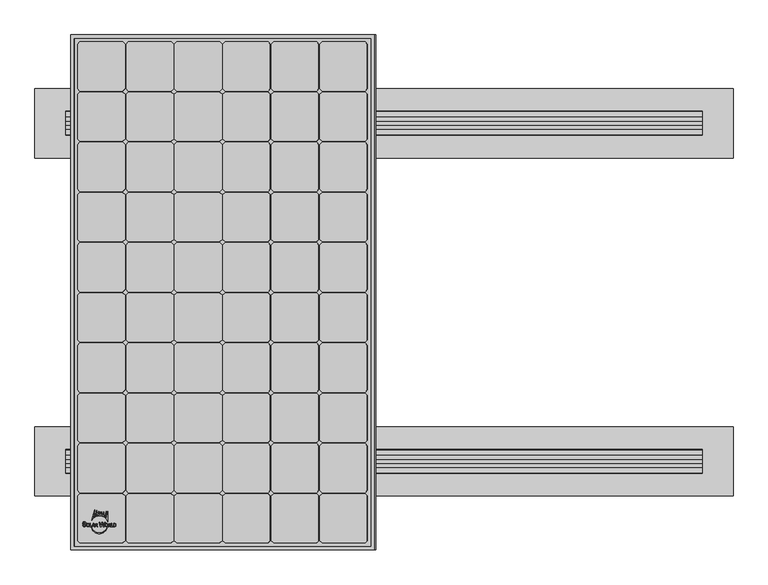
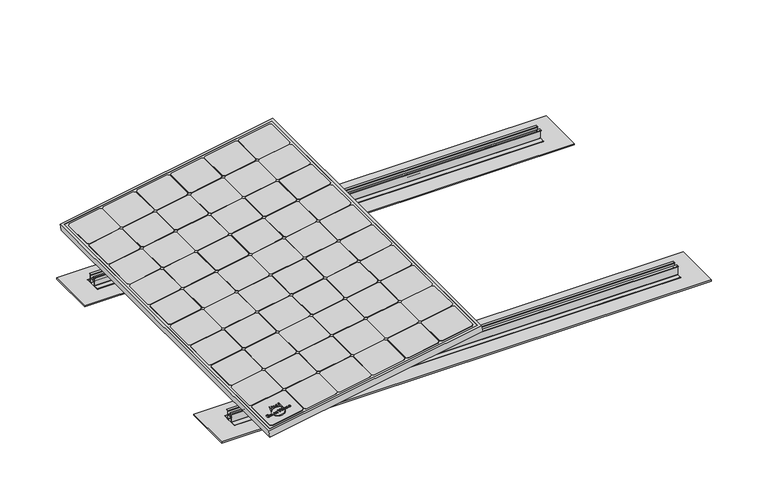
"""IFC4 building model written with IfcOpenShell, lengths in millimetres: proxy geometry, Kit Sunfix aero duo : Sunmodule Plus mono."""

from ifc_helpers import new_model, si_unit, point, frame, frame_2d, origin, origin_with_axes, place, context, project, spatial, polyline, circle_curve, trimmed, segment, composite_curve, outline, extrude, source, transform, mapped, element, save


def generic_models_581dbe9a(model_context):
    return source(origin(), model_context, "Body", "SweptSolid", [
        extrude(outline(composite_curve([segment(trimmed(circle_curve(frame_2d((-0.1998849, 3.2006257)), 5.0), [point((-0.1998849, 8.2006256))], [point((-0.1998849, -1.7993743))], False, "CARTESIAN"), True, "CONTINUOUS"), segment(trimmed(circle_curve(frame_2d((-0.1998849, 3.2006257)), 5.0), [point((-0.1998849, -1.7993743))], [point((-0.1998849, 8.2006256))], False, "CARTESIAN"), True, "CONTINUOUS")], self_intersect=False), holes=[composite_curve([segment(trimmed(circle_curve(frame_2d((0.0, 3.4929825)), 3.4929825), [point((0.0, 6.985965))], [point((0.0, 0.0))], True, "CARTESIAN"), True, "CONTINUOUS"), segment(trimmed(circle_curve(frame_2d((0.0, 3.4929825)), 3.4929825), [point((0.0, 0.0))], [point((0.0, 6.985965))], True, "CARTESIAN"), True, "CONTINUOUS")], self_intersect=False)]), frame((-964.9931519, -757.0649809, 131.8084197), z_axis=(-0.17364817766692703, 0.0, 0.9848077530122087), x_axis=(0.0, -1.0, 0.0)), (0.0, 0.0, 1.0), 0.9849601),
        extrude(outline(polyline([(-5.1998849, 9.0702125), (-5.1998849, 10.4420414), (3.5312002, 10.4420414), (3.5312002, 15.8326664), (4.8001151, 15.8326664), (4.8001151, 9.0702125), (-5.1998849, 9.0702125)])), frame((-964.9931519, -757.0649809, 131.8084197), z_axis=(-0.17364817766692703, 0.0, 0.9848077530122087), x_axis=(0.0, -1.0, 0.0)), (0.0, 0.0, 1.0), 0.9849601),
        extrude(outline(polyline([(1.7085687, 18.902279), (4.8001151, 17.7155454), (4.8001151, 16.3665353), (-5.1998849, 20.2051756), (-5.1998849, 21.4382801), (4.8001151, 25.4785423), (4.8001151, 23.923003), (1.7085687, 22.7977721), (1.7085687, 18.902279)]), holes=[polyline([(0.4734297, 22.3482183), (-3.500464, 20.9018393), (0.4734297, 19.3764044), (0.4734297, 22.3482183)])]), frame((-964.9931519, -757.0649809, 131.8084197), z_axis=(-0.17364817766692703, 0.0, 0.9848077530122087), x_axis=(0.0, -1.0, 0.0)), (0.0, 0.0, 1.0), 0.9849601),
        extrude(outline(composite_curve([segment(polyline([(-5.0411189, 26.556974), (-5.0411189, 30.7422059)]), True, "CONTINUOUS"), segment(trimmed(circle_curve(frame_2d((-2.1117507, 30.7422059)), 2.9293683), [point((-5.0411189, 30.7422059))], [point((0.4734297, 32.1198999))], False, "CARTESIAN"), True, "CONTINUOUS"), segment(polyline([(0.4734297, 32.1198999), (4.8001151, 34.8235129), (4.8001151, 33.4458189), (0.4734297, 30.7422059), (0.4734297, 27.7362383), (4.8001151, 27.7362383), (4.8001151, 26.556974), (-5.0411189, 26.556974)]), True, "CONTINUOUS")], self_intersect=False), holes=[composite_curve([segment(polyline([(-3.7924862, 30.7915982), (-3.7924862, 27.7362383), (-0.6940273, 27.7362383), (-0.6940273, 30.7915982)]), True, "CONTINUOUS"), segment(trimmed(circle_curve(frame_2d((-2.2432568, 30.7915982)), 1.5492295), [point((-0.6940273, 30.7915982))], [point((-3.7924862, 30.7915982))], True, "CARTESIAN"), True, "CONTINUOUS")], self_intersect=False)]), frame((-964.9931519, -757.0649809, 131.8084197), z_axis=(-0.17364817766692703, 0.0, 0.9848077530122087), x_axis=(0.0, -1.0, 0.0)), (0.0, 0.0, 1.0), 0.9849601),
        extrude(outline(composite_curve([segment(trimmed(circle_curve(frame_2d((1.9053474, 40.4638564)), 26.5), [point((8.7208449, 66.0724291))], [point((8.7208449, 14.8552837))], False, "CARTESIAN"), True, "CONTINUOUS"), segment(trimmed(circle_curve(frame_2d((-2.6017434, 40.4638564)), 28.0), [point((8.7208449, 14.8552837))], [point((8.7208449, 66.0724291))], True, "CARTESIAN"), True, "CONTINUOUS")], self_intersect=False)), frame((-964.9931519, -757.0649809, 131.8084197), z_axis=(-0.17364817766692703, 0.0, 0.9848077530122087), x_axis=(0.0, -1.0, 0.0)), (0.0, 0.0, 1.0), 0.9849601),
        extrude(outline(polyline([(4.8001151, 44.2256023), (-9.9398205, 40.2760484), (-9.9398205, 42.074514), (2.5405515, 45.1862202), (-9.9398205, 48.8966599), (-9.9398205, 51.6212433), (2.7353917, 55.3507953), (-9.9398205, 58.3691276), (-9.9398205, 60.3004055), (4.8001151, 56.3508516), (4.8001151, 54.2558571), (-8.1954331, 50.2827193), (4.8001151, 46.4191166), (4.8001151, 44.2256023)])), frame((-964.9931519, -757.0649809, 131.8084197), z_axis=(-0.17364817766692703, 0.0, 0.9848077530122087), x_axis=(0.0, -1.0, 0.0)), (0.0, 0.0, 1.0), 0.9849601),
        extrude(outline(composite_curve([segment(trimmed(circle_curve(frame_2d((-0.1998849, 64.1588177)), 5.0), [point((-0.1998849, 69.1588177))], [point((-0.1998849, 59.1588178))], False, "CARTESIAN"), True, "CONTINUOUS"), segment(trimmed(circle_curve(frame_2d((-0.1998849, 64.1588177)), 5.0), [point((-0.1998849, 59.1588178))], [point((-0.1998849, 69.1588177))], False, "CARTESIAN"), True, "CONTINUOUS")], self_intersect=False), holes=[composite_curve([segment(trimmed(circle_curve(frame_2d((-0.1998849, 64.1588177)), 3.4929825), [point((-0.1998849, 67.6518003))], [point((-0.1998849, 60.6658353))], True, "CARTESIAN"), True, "CONTINUOUS"), segment(trimmed(circle_curve(frame_2d((-0.1998849, 64.1588177)), 3.4929825), [point((-0.1998849, 60.6658353))], [point((-0.1998849, 67.6518003))], True, "CARTESIAN"), True, "CONTINUOUS")], self_intersect=False)]), frame((-964.9931519, -757.0649809, 131.8084197), z_axis=(-0.17364817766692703, 0.0, 0.9848077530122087), x_axis=(0.0, -1.0, 0.0)), (0.0, 0.0, 1.0), 0.9849601),
        extrude(outline(composite_curve([segment(polyline([(-5.0411189, 69.9653712), (-5.0411189, 74.150603)]), True, "CONTINUOUS"), segment(trimmed(circle_curve(frame_2d((-2.1117507, 74.150603)), 2.9293683), [point((-5.0411189, 74.150603))], [point((0.4734297, 75.5282971))], False, "CARTESIAN"), True, "CONTINUOUS"), segment(polyline([(0.4734297, 75.5282971), (4.8001151, 78.2319101), (4.8001151, 76.8542161), (0.4734297, 74.150603), (0.4734297, 71.1446354), (4.8001151, 71.1446354), (4.8001151, 69.9653712), (-5.0411189, 69.9653712)]), True, "CONTINUOUS")], self_intersect=False), holes=[composite_curve([segment(polyline([(-3.7924862, 74.1999954), (-3.7924862, 71.1446354), (-0.6940273, 71.1446354), (-0.6940273, 74.1999954)]), True, "CONTINUOUS"), segment(trimmed(circle_curve(frame_2d((-2.2432568, 74.1999954)), 1.5492295), [point((-0.6940273, 74.1999954))], [point((-3.7924862, 74.1999954))], True, "CARTESIAN"), True, "CONTINUOUS")], self_intersect=False)]), frame((-964.9931519, -757.0649809, 131.8084197), z_axis=(-0.17364817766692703, 0.0, 0.9848077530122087), x_axis=(0.0, -1.0, 0.0)), (0.0, 0.0, 1.0), 0.9849601),
        extrude(outline(polyline([(4.8001151, 79.926566), (-5.1998849, 79.926566), (-5.1998849, 81.1546295), (3.5152088, 81.1546295), (3.5152088, 86.1546295), (4.8001151, 86.1546295), (4.8001151, 79.926566)])), frame((-964.9931519, -757.0649809, 131.8084197), z_axis=(-0.17364817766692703, 0.0, 0.9848077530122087), x_axis=(0.0, -1.0, 0.0)), (0.0, 0.0, 1.0), 0.9849601),
        extrude(outline(composite_curve([segment(polyline([(4.8001151, 87.4892146), (-5.1998849, 87.4892146), (-5.1998849, 91.6547374)]), True, "CONTINUOUS"), segment(trimmed(circle_curve(frame_2d((-0.1998849, 90.5586456)), 5.118732), [point((-5.1998849, 91.6547374))], [point((4.8001151, 91.6547374))], False, "CARTESIAN"), True, "CONTINUOUS"), segment(polyline([(4.8001151, 91.6547374), (4.8001151, 87.4892146)]), True, "CONTINUOUS")], self_intersect=False), holes=[composite_curve([segment(polyline([(-3.6386387, 89.0149736), (3.3613613, 89.0149736), (3.3613613, 90.7441157)]), True, "CONTINUOUS"), segment(trimmed(circle_curve(frame_2d((-0.1386387, 90.7441157)), 3.5), [point((3.3613613, 90.7441157))], [point((-3.6386387, 90.7441157))], True, "CARTESIAN"), True, "CONTINUOUS"), segment(polyline([(-3.6386387, 90.7441157), (-3.6386387, 89.0149736)]), True, "CONTINUOUS")], self_intersect=False)]), frame((-964.9931519, -757.0649809, 131.8084197), z_axis=(-0.17364817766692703, 0.0, 0.9848077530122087), x_axis=(0.0, -1.0, 0.0)), (0.0, 0.0, 1.0), 0.9849601),
        extrude(outline(composite_curve([segment(trimmed(circle_curve(frame_2d((-5.8567778, -8.5215553)), 5.3511248), [point((-2.5428431, -12.7230281))], [point((-5.8567778, -3.1704305))], False, "CARTESIAN"), True, "CONTINUOUS"), segment(polyline([(-5.8567778, -3.1704305), (-5.8567778, -4.9541388)]), True, "CONTINUOUS"), segment(trimmed(circle_curve(frame_2d((-5.8567778, -8.4292945)), 3.4751557), [point((-5.8567778, -4.9541388))], [point((-4.0740931, -11.4123705))], True, "CARTESIAN"), True, "CONTINUOUS"), segment(polyline([(-4.0740931, -11.4123705), (-4.0740931, -4.6349933)]), True, "CONTINUOUS"), segment(trimmed(circle_curve(frame_2d((-0.1981171, -8.4406899)), 5.4319901), [point((-4.0740931, -4.6349933))], [point((-0.1981171, -13.8726801))], False, "CARTESIAN"), True, "CONTINUOUS"), segment(polyline([(-0.1981171, -13.8726801), (-0.1981171, -11.9609934)]), True, "CONTINUOUS"), segment(trimmed(circle_curve(frame_2d((-0.1981171, -8.5473448)), 3.4136486), [point((-0.1981171, -11.9609934))], [point((-2.5428431, -6.0663658))], True, "CARTESIAN"), True, "CONTINUOUS"), segment(polyline([(-2.5428431, -6.0663658), (-2.5428431, -12.7230281)]), True, "CONTINUOUS")], self_intersect=False)), frame((-964.9931519, -757.0649809, 131.8084197), z_axis=(-0.17364817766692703, 0.0, 0.9848077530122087), x_axis=(0.0, -1.0, 0.0)), (0.0, 0.0, 1.0), 0.9849601),
        extrude(outline(composite_curve([segment(trimmed(circle_curve(frame_2d((-1.0440339, 40.9467485)), 29.2067961), [point((-23.9790883, 22.8630482))], [point((-15.9921531, 15.8551031))], True, "CARTESIAN"), True, "CONTINUOUS"), segment(polyline([(-15.9921531, 15.8551031), (-50.5289432, 26.1229605), (-23.9790883, 22.8630482)]), True, "CONTINUOUS")], self_intersect=False)), frame((-964.9931519, -757.0649809, 131.8084197), z_axis=(-0.17364817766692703, 0.0, 0.9848077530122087), x_axis=(0.0, -1.0, 0.0)), (0.0, 0.0, 1.0), 0.9849601),
        extrude(outline(composite_curve([segment(polyline([(-45.6184953, 68.4638003), (-10.8342738, 68.4638003)]), True, "CONTINUOUS"), segment(trimmed(circle_curve(frame_2d((-1.0440339, 40.9467485)), 29.2067961), [point((-10.8342738, 68.4638003))], [point((-20.1505739, 63.0369513))], True, "CARTESIAN"), True, "CONTINUOUS"), segment(polyline([(-20.1505739, 63.0369513), (-45.6184953, 68.4638003)]), True, "CONTINUOUS")], self_intersect=False)), frame((-964.9931519, -757.0649809, 131.8084197), z_axis=(-0.17364817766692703, 0.0, 0.9848077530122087), x_axis=(0.0, -1.0, 0.0)), (0.0, 0.0, 1.0), 0.9849601),
        extrude(outline(composite_curve([segment(polyline([(-44.1747175, 63.1268574), (-21.4882128, 61.8051397)]), True, "CONTINUOUS"), segment(trimmed(circle_curve(frame_2d((-1.0440339, 40.9467485)), 29.2067961), [point((-21.4882128, 61.8051397))], [point((-24.7730634, 57.9752567))], True, "CARTESIAN"), True, "CONTINUOUS"), segment(polyline([(-24.7730634, 57.9752567), (-44.1747175, 63.1268574)]), True, "CONTINUOUS")], self_intersect=False)), frame((-964.9931519, -757.0649809, 131.8084197), z_axis=(-0.17364817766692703, 0.0, 0.9848077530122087), x_axis=(0.0, -1.0, 0.0)), (0.0, 0.0, 1.0), 0.9849601),
        extrude(outline(composite_curve([segment(trimmed(circle_curve(frame_2d((-1.0440339, 40.9467485)), 29.2067961), [point((-30.016107, 44.6421395))], [point((-30.2372718, 40.0569205))], True, "CARTESIAN"), True, "CONTINUOUS"), segment(polyline([(-30.2372718, 40.0569205), (-43.7376583, 43.2717505), (-30.016107, 44.6421395)]), True, "CONTINUOUS")], self_intersect=False)), frame((-964.9931519, -757.0649809, 131.8084197), z_axis=(-0.17364817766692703, 0.0, 0.9848077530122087), x_axis=(0.0, -1.0, 0.0)), (0.0, 0.0, 1.0), 0.9849601),
        extrude(outline(composite_curve([segment(polyline([(-43.0867937, 49.2829525), (-28.940714, 49.5961517)]), True, "CONTINUOUS"), segment(trimmed(circle_curve(frame_2d((-1.0440339, 40.9467485)), 29.2067961), [point((-28.940714, 49.5961517))], [point((-29.7301925, 46.4368523))], True, "CARTESIAN"), True, "CONTINUOUS"), segment(polyline([(-29.7301925, 46.4368523), (-43.0867937, 49.2829525)]), True, "CONTINUOUS")], self_intersect=False)), frame((-964.9931519, -757.0649809, 131.8084197), z_axis=(-0.17364817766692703, 0.0, 0.9848077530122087), x_axis=(0.0, -1.0, 0.0)), (0.0, 0.0, 1.0), 0.9849601),
        extrude(outline(composite_curve([segment(polyline([(-43.0770314, 54.8085395), (-26.7517698, 54.8085395)]), True, "CONTINUOUS"), segment(trimmed(circle_curve(frame_2d((-1.0440339, 40.9467485)), 29.2067961), [point((-26.7517698, 54.8085395))], [point((-28.353325, 51.3024018))], True, "CARTESIAN"), True, "CONTINUOUS"), segment(polyline([(-28.353325, 51.3024018), (-43.0770314, 54.8085395)]), True, "CONTINUOUS")], self_intersect=False)), frame((-964.9931519, -757.0649809, 131.8084197), z_axis=(-0.17364817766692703, 0.0, 0.9848077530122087), x_axis=(0.0, -1.0, 0.0)), (0.0, 0.0, 1.0), 0.9849601),
        extrude(outline(composite_curve([segment(trimmed(circle_curve(frame_2d((-1.0440339, 40.9467485)), 29.2067961), [point((-28.5480992, 31.1200845))], [point((-26.1399185, 26.0057475))], True, "CARTESIAN"), True, "CONTINUOUS"), segment(polyline([(-26.1399185, 26.0057475), (-47.3787629, 32.2171606), (-28.5480992, 31.1200845)]), True, "CONTINUOUS")], self_intersect=False)), frame((-964.9931519, -757.0649809, 131.8084197), z_axis=(-0.17364817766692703, 0.0, 0.9848077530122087), x_axis=(0.0, -1.0, 0.0)), (0.0, 0.0, 1.0), 0.9849601),
        extrude(outline(composite_curve([segment(trimmed(circle_curve(frame_2d((-1.0440339, 40.9467485)), 29.2067961), [point((-30.1062523, 38.0442673))], [point((-29.165809, 33.0598797))], True, "CARTESIAN"), True, "CONTINUOUS"), segment(polyline([(-29.165809, 33.0598797), (-44.3056664, 38.8715264), (-30.1062523, 38.0442673)]), True, "CONTINUOUS")], self_intersect=False)), frame((-964.9931519, -757.0649809, 131.8084197), z_axis=(-0.17364817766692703, 0.0, 0.9848077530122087), x_axis=(0.0, -1.0, 0.0)), (0.0, 0.0, 1.0), 0.9849601),
        extrude(outline(polyline([(-1477.2, 172.0), (-1469.7, 179.5), (-1324.7, 179.5), (-1317.2, 172.0), (-1317.2, 30.0), (-1324.7, 22.5), (-1469.7, 22.5), (-1477.2, 30.0), (-1477.2, 172.0)])), frame((-1017.6207833, -662.5, 121.5133218), z_axis=(-0.17364817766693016, 0.0, 0.9848077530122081), x_axis=(0.0, -1.0, 0.0)), (0.0, 0.0, 1.0), 1.0),
        extrude(outline(polyline([(-1477.2, 331.8), (-1469.7, 339.3), (-1324.7, 339.3), (-1317.2, 331.8), (-1317.2, 189.8), (-1324.7, 182.3), (-1469.7, 182.3), (-1477.2, 189.8), (-1477.2, 331.8)])), frame((-1017.6207833, -662.5, 121.5133218), z_axis=(-0.17364817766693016, 0.0, 0.9848077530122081), x_axis=(0.0, -1.0, 0.0)), (0.0, 0.0, 1.0), 1.0),
        extrude(outline(polyline([(-1477.2, 491.6), (-1469.7, 499.1), (-1324.7, 499.1), (-1317.2, 491.6), (-1317.2, 349.6), (-1324.7, 342.1), (-1469.7, 342.1), (-1477.2, 349.6), (-1477.2, 491.6)])), frame((-1017.6207833, -662.5, 121.5133218), z_axis=(-0.17364817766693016, 0.0, 0.9848077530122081), x_axis=(0.0, -1.0, 0.0)), (0.0, 0.0, 1.0), 1.0),
        extrude(outline(polyline([(-1477.2, 651.4), (-1469.7, 658.9), (-1324.7, 658.9), (-1317.2, 651.4), (-1317.2, 509.4), (-1324.7, 501.9), (-1469.7, 501.9), (-1477.2, 509.4), (-1477.2, 651.4)])), frame((-1017.6207833, -662.5, 121.5133218), z_axis=(-0.17364817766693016, 0.0, 0.9848077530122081), x_axis=(0.0, -1.0, 0.0)), (0.0, 0.0, 1.0), 1.0),
        extrude(outline(polyline([(-1477.2, 811.2), (-1469.7, 818.7), (-1324.7, 818.7), (-1317.2, 811.2), (-1317.2, 669.2), (-1324.7, 661.7), (-1469.7, 661.7), (-1477.2, 669.2), (-1477.2, 811.2)])), frame((-1017.6207833, -662.5, 121.5133218), z_axis=(-0.17364817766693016, 0.0, 0.9848077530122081), x_axis=(0.0, -1.0, 0.0)), (0.0, 0.0, 1.0), 1.0),
        extrude(outline(polyline([(-1477.2, 971.0), (-1469.7, 978.5), (-1324.7, 978.5), (-1317.2, 971.0), (-1317.2, 829.0), (-1324.7, 821.5), (-1469.7, 821.5), (-1477.2, 829.0), (-1477.2, 971.0)])), frame((-1017.6207833, -662.5, 121.5133218), z_axis=(-0.17364817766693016, 0.0, 0.9848077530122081), x_axis=(0.0, -1.0, 0.0)), (0.0, 0.0, 1.0), 1.0),
        extrude(outline(polyline([(-1313.9, 172.0), (-1306.4, 179.5), (-1161.4, 179.5), (-1153.9, 172.0), (-1153.9, 30.0), (-1161.4, 22.5), (-1306.4, 22.5), (-1313.9, 30.0), (-1313.9, 172.0)])), frame((-1017.6207833, -662.5, 121.5133218), z_axis=(-0.17364817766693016, 0.0, 0.9848077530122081), x_axis=(0.0, -1.0, 0.0)), (0.0, 0.0, 1.0), 1.0),
        extrude(outline(polyline([(-1313.9, 331.8), (-1306.4, 339.3), (-1161.4, 339.3), (-1153.9, 331.8), (-1153.9, 189.8), (-1161.4, 182.3), (-1306.4, 182.3), (-1313.9, 189.8), (-1313.9, 331.8)])), frame((-1017.6207833, -662.5, 121.5133218), z_axis=(-0.17364817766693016, 0.0, 0.9848077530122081), x_axis=(0.0, -1.0, 0.0)), (0.0, 0.0, 1.0), 1.0),
        extrude(outline(polyline([(-1313.9, 491.6), (-1306.4, 499.1), (-1161.4, 499.1), (-1153.9, 491.6), (-1153.9, 349.6), (-1161.4, 342.1), (-1306.4, 342.1), (-1313.9, 349.6), (-1313.9, 491.6)])), frame((-1017.6207833, -662.5, 121.5133218), z_axis=(-0.17364817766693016, 0.0, 0.9848077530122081), x_axis=(0.0, -1.0, 0.0)), (0.0, 0.0, 1.0), 1.0),
        extrude(outline(polyline([(-1313.9, 651.4), (-1306.4, 658.9), (-1161.4, 658.9), (-1153.9, 651.4), (-1153.9, 509.4), (-1161.4, 501.9), (-1306.4, 501.9), (-1313.9, 509.4), (-1313.9, 651.4)])), frame((-1017.6207833, -662.5, 121.5133218), z_axis=(-0.17364817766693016, 0.0, 0.9848077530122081), x_axis=(0.0, -1.0, 0.0)), (0.0, 0.0, 1.0), 1.0),
        extrude(outline(polyline([(-1313.9, 811.2), (-1306.4, 818.7), (-1161.4, 818.7), (-1153.9, 811.2), (-1153.9, 669.2), (-1161.4, 661.7), (-1306.4, 661.7), (-1313.9, 669.2), (-1313.9, 811.2)])), frame((-1017.6207833, -662.5, 121.5133218), z_axis=(-0.17364817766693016, 0.0, 0.9848077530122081), x_axis=(0.0, -1.0, 0.0)), (0.0, 0.0, 1.0), 1.0),
        extrude(outline(polyline([(-1313.9, 971.0), (-1306.4, 978.5), (-1161.4, 978.5), (-1153.9, 971.0), (-1153.9, 829.0), (-1161.4, 821.5), (-1306.4, 821.5), (-1313.9, 829.0), (-1313.9, 971.0)])), frame((-1017.6207833, -662.5, 121.5133218), z_axis=(-0.17364817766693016, 0.0, 0.9848077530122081), x_axis=(0.0, -1.0, 0.0)), (0.0, 0.0, 1.0), 1.0),
        extrude(outline(polyline([(-1150.6, 172.0), (-1143.1, 179.5), (-998.1, 179.5), (-990.6, 172.0), (-990.6, 30.0), (-998.1, 22.5), (-1143.1, 22.5), (-1150.6, 30.0), (-1150.6, 172.0)])), frame((-1017.6207833, -662.5, 121.5133218), z_axis=(-0.17364817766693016, 0.0, 0.9848077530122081), x_axis=(0.0, -1.0, 0.0)), (0.0, 0.0, 1.0), 1.0),
        extrude(outline(polyline([(-1150.6, 331.8), (-1143.1, 339.3), (-998.1, 339.3), (-990.6, 331.8), (-990.6, 189.8), (-998.1, 182.3), (-1143.1, 182.3), (-1150.6, 189.8), (-1150.6, 331.8)])), frame((-1017.6207833, -662.5, 121.5133218), z_axis=(-0.17364817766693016, 0.0, 0.9848077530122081), x_axis=(0.0, -1.0, 0.0)), (0.0, 0.0, 1.0), 1.0),
        extrude(outline(polyline([(-1150.6, 491.6), (-1143.1, 499.1), (-998.1, 499.1), (-990.6, 491.6), (-990.6, 349.6), (-998.1, 342.1), (-1143.1, 342.1), (-1150.6, 349.6), (-1150.6, 491.6)])), frame((-1017.6207833, -662.5, 121.5133218), z_axis=(-0.17364817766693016, 0.0, 0.9848077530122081), x_axis=(0.0, -1.0, 0.0)), (0.0, 0.0, 1.0), 1.0),
        extrude(outline(polyline([(-1150.6, 651.4), (-1143.1, 658.9), (-998.1, 658.9), (-990.6, 651.4), (-990.6, 509.4), (-998.1, 501.9), (-1143.1, 501.9), (-1150.6, 509.4), (-1150.6, 651.4)])), frame((-1017.6207833, -662.5, 121.5133218), z_axis=(-0.17364817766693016, 0.0, 0.9848077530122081), x_axis=(0.0, -1.0, 0.0)), (0.0, 0.0, 1.0), 1.0),
        extrude(outline(polyline([(-1150.6, 811.2), (-1143.1, 818.7), (-998.1, 818.7), (-990.6, 811.2), (-990.6, 669.2), (-998.1, 661.7), (-1143.1, 661.7), (-1150.6, 669.2), (-1150.6, 811.2)])), frame((-1017.6207833, -662.5, 121.5133218), z_axis=(-0.17364817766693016, 0.0, 0.9848077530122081), x_axis=(0.0, -1.0, 0.0)), (0.0, 0.0, 1.0), 1.0),
        extrude(outline(polyline([(-1150.6, 971.0), (-1143.1, 978.5), (-998.1, 978.5), (-990.6, 971.0), (-990.6, 829.0), (-998.1, 821.5), (-1143.1, 821.5), (-1150.6, 829.0), (-1150.6, 971.0)])), frame((-1017.6207833, -662.5, 121.5133218), z_axis=(-0.17364817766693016, 0.0, 0.9848077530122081), x_axis=(0.0, -1.0, 0.0)), (0.0, 0.0, 1.0), 1.0),
        extrude(outline(polyline([(-987.3, 172.0), (-979.8, 179.5), (-834.8, 179.5), (-827.3, 172.0), (-827.3, 30.0), (-834.8, 22.5), (-979.8, 22.5), (-987.3, 30.0), (-987.3, 172.0)])), frame((-1017.6207833, -662.5, 121.5133218), z_axis=(-0.17364817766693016, 0.0, 0.9848077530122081), x_axis=(0.0, -1.0, 0.0)), (0.0, 0.0, 1.0), 1.0),
        extrude(outline(polyline([(-987.3, 331.8), (-979.8, 339.3), (-834.8, 339.3), (-827.3, 331.8), (-827.3, 189.8), (-834.8, 182.3), (-979.8, 182.3), (-987.3, 189.8), (-987.3, 331.8)])), frame((-1017.6207833, -662.5, 121.5133218), z_axis=(-0.17364817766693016, 0.0, 0.9848077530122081), x_axis=(0.0, -1.0, 0.0)), (0.0, 0.0, 1.0), 1.0),
        extrude(outline(polyline([(-987.3, 491.6), (-979.8, 499.1), (-834.8, 499.1), (-827.3, 491.6), (-827.3, 349.6), (-834.8, 342.1), (-979.8, 342.1), (-987.3, 349.6), (-987.3, 491.6)])), frame((-1017.6207833, -662.5, 121.5133218), z_axis=(-0.17364817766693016, 0.0, 0.9848077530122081), x_axis=(0.0, -1.0, 0.0)), (0.0, 0.0, 1.0), 1.0),
        extrude(outline(polyline([(-987.3, 651.4), (-979.8, 658.9), (-834.8, 658.9), (-827.3, 651.4), (-827.3, 509.4), (-834.8, 501.9), (-979.8, 501.9), (-987.3, 509.4), (-987.3, 651.4)])), frame((-1017.6207833, -662.5, 121.5133218), z_axis=(-0.17364817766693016, 0.0, 0.9848077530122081), x_axis=(0.0, -1.0, 0.0)), (0.0, 0.0, 1.0), 1.0),
        extrude(outline(polyline([(-987.3, 811.2), (-979.8, 818.7), (-834.8, 818.7), (-827.3, 811.2), (-827.3, 669.2), (-834.8, 661.7), (-979.8, 661.7), (-987.3, 669.2), (-987.3, 811.2)])), frame((-1017.6207833, -662.5, 121.5133218), z_axis=(-0.17364817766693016, 0.0, 0.9848077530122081), x_axis=(0.0, -1.0, 0.0)), (0.0, 0.0, 1.0), 1.0),
        extrude(outline(polyline([(-987.3, 971.0), (-979.8, 978.5), (-834.8, 978.5), (-827.3, 971.0), (-827.3, 829.0), (-834.8, 821.5), (-979.8, 821.5), (-987.3, 829.0), (-987.3, 971.0)])), frame((-1017.6207833, -662.5, 121.5133218), z_axis=(-0.17364817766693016, 0.0, 0.9848077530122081), x_axis=(0.0, -1.0, 0.0)), (0.0, 0.0, 1.0), 1.0),
        extrude(outline(polyline([(-824.0, 172.0), (-816.5, 179.5), (-671.5, 179.5), (-664.0, 172.0), (-664.0, 30.0), (-671.5, 22.5), (-816.5, 22.5), (-824.0, 30.0), (-824.0, 172.0)])), frame((-1017.6207833, -662.5, 121.5133218), z_axis=(-0.17364817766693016, 0.0, 0.9848077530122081), x_axis=(0.0, -1.0, 0.0)), (0.0, 0.0, 1.0), 1.0),
        extrude(outline(polyline([(-824.0, 331.8), (-816.5, 339.3), (-671.5, 339.3), (-664.0, 331.8), (-664.0, 189.8), (-671.5, 182.3), (-816.5, 182.3), (-824.0, 189.8), (-824.0, 331.8)])), frame((-1017.6207833, -662.5, 121.5133218), z_axis=(-0.17364817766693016, 0.0, 0.9848077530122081), x_axis=(0.0, -1.0, 0.0)), (0.0, 0.0, 1.0), 1.0),
        extrude(outline(polyline([(-824.0, 491.6), (-816.5, 499.1), (-671.5, 499.1), (-664.0, 491.6), (-664.0, 349.6), (-671.5, 342.1), (-816.5, 342.1), (-824.0, 349.6), (-824.0, 491.6)])), frame((-1017.6207833, -662.5, 121.5133218), z_axis=(-0.17364817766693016, 0.0, 0.9848077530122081), x_axis=(0.0, -1.0, 0.0)), (0.0, 0.0, 1.0), 1.0),
        extrude(outline(polyline([(-824.0, 651.4), (-816.5, 658.9), (-671.5, 658.9), (-664.0, 651.4), (-664.0, 509.4), (-671.5, 501.9), (-816.5, 501.9), (-824.0, 509.4), (-824.0, 651.4)])), frame((-1017.6207833, -662.5, 121.5133218), z_axis=(-0.17364817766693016, 0.0, 0.9848077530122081), x_axis=(0.0, -1.0, 0.0)), (0.0, 0.0, 1.0), 1.0),
        extrude(outline(polyline([(-824.0, 811.2), (-816.5, 818.7), (-671.5, 818.7), (-664.0, 811.2), (-664.0, 669.2), (-671.5, 661.7), (-816.5, 661.7), (-824.0, 669.2), (-824.0, 811.2)])), frame((-1017.6207833, -662.5, 121.5133218), z_axis=(-0.17364817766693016, 0.0, 0.9848077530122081), x_axis=(0.0, -1.0, 0.0)), (0.0, 0.0, 1.0), 1.0),
        extrude(outline(polyline([(-824.0, 971.0), (-816.5, 978.5), (-671.5, 978.5), (-664.0, 971.0), (-664.0, 829.0), (-671.5, 821.5), (-816.5, 821.5), (-824.0, 829.0), (-824.0, 971.0)])), frame((-1017.6207833, -662.5, 121.5133218), z_axis=(-0.17364817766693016, 0.0, 0.9848077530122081), x_axis=(0.0, -1.0, 0.0)), (0.0, 0.0, 1.0), 1.0),
        extrude(outline(polyline([(-660.7, 172.0), (-653.2, 179.5), (-508.2, 179.5), (-500.7, 172.0), (-500.7, 30.0), (-508.2, 22.5), (-653.2, 22.5), (-660.7, 30.0), (-660.7, 172.0)])), frame((-1017.6207833, -662.5, 121.5133218), z_axis=(-0.17364817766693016, 0.0, 0.9848077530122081), x_axis=(0.0, -1.0, 0.0)), (0.0, 0.0, 1.0), 1.0),
        extrude(outline(polyline([(-660.7, 331.8), (-653.2, 339.3), (-508.2, 339.3), (-500.7, 331.8), (-500.7, 189.8), (-508.2, 182.3), (-653.2, 182.3), (-660.7, 189.8), (-660.7, 331.8)])), frame((-1017.6207833, -662.5, 121.5133218), z_axis=(-0.17364817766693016, 0.0, 0.9848077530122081), x_axis=(0.0, -1.0, 0.0)), (0.0, 0.0, 1.0), 1.0),
        extrude(outline(polyline([(-660.7, 491.6), (-653.2, 499.1), (-508.2, 499.1), (-500.7, 491.6), (-500.7, 349.6), (-508.2, 342.1), (-653.2, 342.1), (-660.7, 349.6), (-660.7, 491.6)])), frame((-1017.6207833, -662.5, 121.5133218), z_axis=(-0.17364817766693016, 0.0, 0.9848077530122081), x_axis=(0.0, -1.0, 0.0)), (0.0, 0.0, 1.0), 1.0),
        extrude(outline(polyline([(-660.7, 651.4), (-653.2, 658.9), (-508.2, 658.9), (-500.7, 651.4), (-500.7, 509.4), (-508.2, 501.9), (-653.2, 501.9), (-660.7, 509.4), (-660.7, 651.4)])), frame((-1017.6207833, -662.5, 121.5133218), z_axis=(-0.17364817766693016, 0.0, 0.9848077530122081), x_axis=(0.0, -1.0, 0.0)), (0.0, 0.0, 1.0), 1.0),
        extrude(outline(polyline([(-660.7, 811.2), (-653.2, 818.7), (-508.2, 818.7), (-500.7, 811.2), (-500.7, 669.2), (-508.2, 661.7), (-653.2, 661.7), (-660.7, 669.2), (-660.7, 811.2)])), frame((-1017.6207833, -662.5, 121.5133218), z_axis=(-0.17364817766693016, 0.0, 0.9848077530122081), x_axis=(0.0, -1.0, 0.0)), (0.0, 0.0, 1.0), 1.0),
        extrude(outline(polyline([(-660.7, 971.0), (-653.2, 978.5), (-508.2, 978.5), (-500.7, 971.0), (-500.7, 829.0), (-508.2, 821.5), (-653.2, 821.5), (-660.7, 829.0), (-660.7, 971.0)])), frame((-1017.6207833, -662.5, 121.5133218), z_axis=(-0.17364817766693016, 0.0, 0.9848077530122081), x_axis=(0.0, -1.0, 0.0)), (0.0, 0.0, 1.0), 1.0),
        extrude(outline(polyline([(-497.4, 172.0), (-489.9, 179.5), (-344.9, 179.5), (-337.4, 172.0), (-337.4, 30.0), (-344.9, 22.5), (-489.9, 22.5), (-497.4, 30.0), (-497.4, 172.0)])), frame((-1017.6207833, -662.5, 121.5133218), z_axis=(-0.17364817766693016, 0.0, 0.9848077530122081), x_axis=(0.0, -1.0, 0.0)), (0.0, 0.0, 1.0), 1.0),
        extrude(outline(polyline([(-497.4, 331.8), (-489.9, 339.3), (-344.9, 339.3), (-337.4, 331.8), (-337.4, 189.8), (-344.9, 182.3), (-489.9, 182.3), (-497.4, 189.8), (-497.4, 331.8)])), frame((-1017.6207833, -662.5, 121.5133218), z_axis=(-0.17364817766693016, 0.0, 0.9848077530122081), x_axis=(0.0, -1.0, 0.0)), (0.0, 0.0, 1.0), 1.0),
        extrude(outline(polyline([(-497.4, 491.6), (-489.9, 499.1), (-344.9, 499.1), (-337.4, 491.6), (-337.4, 349.6), (-344.9, 342.1), (-489.9, 342.1), (-497.4, 349.6), (-497.4, 491.6)])), frame((-1017.6207833, -662.5, 121.5133218), z_axis=(-0.17364817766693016, 0.0, 0.9848077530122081), x_axis=(0.0, -1.0, 0.0)), (0.0, 0.0, 1.0), 1.0),
        extrude(outline(polyline([(-497.4, 651.4), (-489.9, 658.9), (-344.9, 658.9), (-337.4, 651.4), (-337.4, 509.4), (-344.9, 501.9), (-489.9, 501.9), (-497.4, 509.4), (-497.4, 651.4)])), frame((-1017.6207833, -662.5, 121.5133218), z_axis=(-0.17364817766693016, 0.0, 0.9848077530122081), x_axis=(0.0, -1.0, 0.0)), (0.0, 0.0, 1.0), 1.0),
        extrude(outline(polyline([(-497.4, 811.2), (-489.9, 818.7), (-344.9, 818.7), (-337.4, 811.2), (-337.4, 669.2), (-344.9, 661.7), (-489.9, 661.7), (-497.4, 669.2), (-497.4, 811.2)])), frame((-1017.6207833, -662.5, 121.5133218), z_axis=(-0.17364817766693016, 0.0, 0.9848077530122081), x_axis=(0.0, -1.0, 0.0)), (0.0, 0.0, 1.0), 1.0),
        extrude(outline(polyline([(-497.4, 971.0), (-489.9, 978.5), (-344.9, 978.5), (-337.4, 971.0), (-337.4, 829.0), (-344.9, 821.5), (-489.9, 821.5), (-497.4, 829.0), (-497.4, 971.0)])), frame((-1017.6207833, -662.5, 121.5133218), z_axis=(-0.17364817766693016, 0.0, 0.9848077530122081), x_axis=(0.0, -1.0, 0.0)), (0.0, 0.0, 1.0), 1.0),
        extrude(outline(polyline([(-334.1, 172.0), (-326.6, 179.5), (-181.6, 179.5), (-174.1, 172.0), (-174.1, 30.0), (-181.6, 22.5), (-326.6, 22.5), (-334.1, 30.0), (-334.1, 172.0)])), frame((-1017.6207833, -662.5, 121.5133218), z_axis=(-0.17364817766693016, 0.0, 0.9848077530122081), x_axis=(0.0, -1.0, 0.0)), (0.0, 0.0, 1.0), 1.0),
        extrude(outline(polyline([(-334.1, 331.8), (-326.6, 339.3), (-181.6, 339.3), (-174.1, 331.8), (-174.1, 189.8), (-181.6, 182.3), (-326.6, 182.3), (-334.1, 189.8), (-334.1, 331.8)])), frame((-1017.6207833, -662.5, 121.5133218), z_axis=(-0.17364817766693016, 0.0, 0.9848077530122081), x_axis=(0.0, -1.0, 0.0)), (0.0, 0.0, 1.0), 1.0),
        extrude(outline(polyline([(-334.1, 491.6), (-326.6, 499.1), (-181.6, 499.1), (-174.1, 491.6), (-174.1, 349.6), (-181.6, 342.1), (-326.6, 342.1), (-334.1, 349.6), (-334.1, 491.6)])), frame((-1017.6207833, -662.5, 121.5133218), z_axis=(-0.17364817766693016, 0.0, 0.9848077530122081), x_axis=(0.0, -1.0, 0.0)), (0.0, 0.0, 1.0), 1.0),
        extrude(outline(polyline([(-334.1, 651.4), (-326.6, 658.9), (-181.6, 658.9), (-174.1, 651.4), (-174.1, 509.4), (-181.6, 501.9), (-326.6, 501.9), (-334.1, 509.4), (-334.1, 651.4)])), frame((-1017.6207833, -662.5, 121.5133218), z_axis=(-0.17364817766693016, 0.0, 0.9848077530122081), x_axis=(0.0, -1.0, 0.0)), (0.0, 0.0, 1.0), 1.0),
        extrude(outline(polyline([(-334.1, 811.2), (-326.6, 818.7), (-181.6, 818.7), (-174.1, 811.2), (-174.1, 669.2), (-181.6, 661.7), (-326.6, 661.7), (-334.1, 669.2), (-334.1, 811.2)])), frame((-1017.6207833, -662.5, 121.5133218), z_axis=(-0.17364817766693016, 0.0, 0.9848077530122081), x_axis=(0.0, -1.0, 0.0)), (0.0, 0.0, 1.0), 1.0),
        extrude(outline(polyline([(-334.1, 971.0), (-326.6, 978.5), (-181.6, 978.5), (-174.1, 971.0), (-174.1, 829.0), (-181.6, 821.5), (-326.6, 821.5), (-334.1, 829.0), (-334.1, 971.0)])), frame((-1017.6207833, -662.5, 121.5133218), z_axis=(-0.17364817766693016, 0.0, 0.9848077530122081), x_axis=(0.0, -1.0, 0.0)), (0.0, 0.0, 1.0), 1.0),
        extrude(outline(polyline([(-170.8, 172.0), (-163.3, 179.5), (-18.3, 179.5), (-10.8, 172.0), (-10.8, 30.0), (-18.3, 22.5), (-163.3, 22.5), (-170.8, 30.0), (-170.8, 172.0)])), frame((-1017.6207833, -662.5, 121.5133218), z_axis=(-0.17364817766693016, 0.0, 0.9848077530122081), x_axis=(0.0, -1.0, 0.0)), (0.0, 0.0, 1.0), 1.0),
        extrude(outline(polyline([(-170.8, 331.8), (-163.3, 339.3), (-18.3, 339.3), (-10.8, 331.8), (-10.8, 189.8), (-18.3, 182.3), (-163.3, 182.3), (-170.8, 189.8), (-170.8, 331.8)])), frame((-1017.6207833, -662.5, 121.5133218), z_axis=(-0.17364817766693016, 0.0, 0.9848077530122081), x_axis=(0.0, -1.0, 0.0)), (0.0, 0.0, 1.0), 1.0),
        extrude(outline(polyline([(-170.8, 491.6), (-163.3, 499.1), (-18.3, 499.1), (-10.8, 491.6), (-10.8, 349.6), (-18.3, 342.1), (-163.3, 342.1), (-170.8, 349.6), (-170.8, 491.6)])), frame((-1017.6207833, -662.5, 121.5133218), z_axis=(-0.17364817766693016, 0.0, 0.9848077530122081), x_axis=(0.0, -1.0, 0.0)), (0.0, 0.0, 1.0), 1.0),
        extrude(outline(polyline([(-170.8, 651.4), (-163.3, 658.9), (-18.3, 658.9), (-10.8, 651.4), (-10.8, 509.4), (-18.3, 501.9), (-163.3, 501.9), (-170.8, 509.4), (-170.8, 651.4)])), frame((-1017.6207833, -662.5, 121.5133218), z_axis=(-0.17364817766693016, 0.0, 0.9848077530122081), x_axis=(0.0, -1.0, 0.0)), (0.0, 0.0, 1.0), 1.0),
        extrude(outline(polyline([(-170.8, 811.2), (-163.3, 818.7), (-18.3, 818.7), (-10.8, 811.2), (-10.8, 669.2), (-18.3, 661.7), (-163.3, 661.7), (-170.8, 669.2), (-170.8, 811.2)])), frame((-1017.6207833, -662.5, 121.5133218), z_axis=(-0.17364817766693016, 0.0, 0.9848077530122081), x_axis=(0.0, -1.0, 0.0)), (0.0, 0.0, 1.0), 1.0),
        extrude(outline(polyline([(-170.8, 971.0), (-163.3, 978.5), (-18.3, 978.5), (-10.8, 971.0), (-10.8, 829.0), (-18.3, 821.5), (-163.3, 821.5), (-170.8, 829.0), (-170.8, 971.0)])), frame((-1017.6207833, -662.5, 121.5133218), z_axis=(-0.17364817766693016, 0.0, 0.9848077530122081), x_axis=(0.0, -1.0, 0.0)), (0.0, 0.0, 1.0), 1.0),
        extrude(outline(polyline([(-7.5, 172.0), (0.0, 179.5), (145.0, 179.5), (152.5, 172.0), (152.5, 30.0), (145.0, 22.5), (0.0, 22.5), (-7.5, 30.0), (-7.5, 172.0)])), frame((-1017.6207833, -662.5, 121.5133218), z_axis=(-0.17364817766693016, 0.0, 0.9848077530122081), x_axis=(0.0, -1.0, 0.0)), (0.0, 0.0, 1.0), 1.0),
        extrude(outline(polyline([(-7.5, 331.8), (0.0, 339.3), (145.0, 339.3), (152.5, 331.8), (152.5, 189.8), (145.0, 182.3), (0.0, 182.3), (-7.5, 189.8), (-7.5, 331.8)])), frame((-1017.6207833, -662.5, 121.5133218), z_axis=(-0.17364817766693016, 0.0, 0.9848077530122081), x_axis=(0.0, -1.0, 0.0)), (0.0, 0.0, 1.0), 1.0),
        extrude(outline(polyline([(-7.5, 491.6), (0.0, 499.1), (145.0, 499.1), (152.5, 491.6), (152.5, 349.6), (145.0, 342.1), (0.0, 342.1), (-7.5, 349.6), (-7.5, 491.6)])), frame((-1017.6207833, -662.5, 121.5133218), z_axis=(-0.17364817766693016, 0.0, 0.9848077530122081), x_axis=(0.0, -1.0, 0.0)), (0.0, 0.0, 1.0), 1.0),
        extrude(outline(polyline([(-7.5, 651.4), (0.0, 658.9), (145.0, 658.9), (152.5, 651.4), (152.5, 509.4), (145.0, 501.9), (0.0, 501.9), (-7.5, 509.4), (-7.5, 651.4)])), frame((-1017.6207833, -662.5, 121.5133218), z_axis=(-0.17364817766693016, 0.0, 0.9848077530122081), x_axis=(0.0, -1.0, 0.0)), (0.0, 0.0, 1.0), 1.0),
        extrude(outline(polyline([(-7.5, 811.2), (0.0, 818.7), (145.0, 818.7), (152.5, 811.2), (152.5, 669.2), (145.0, 661.7), (0.0, 661.7), (-7.5, 669.2), (-7.5, 811.2)])), frame((-1017.6207833, -662.5, 121.5133218), z_axis=(-0.17364817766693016, 0.0, 0.9848077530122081), x_axis=(0.0, -1.0, 0.0)), (0.0, 0.0, 1.0), 1.0),
        extrude(outline(polyline([(-7.5, 971.0), (0.0, 978.5), (145.0, 978.5), (152.5, 971.0), (152.5, 829.0), (145.0, 821.5), (0.0, 821.5), (-7.5, 829.0), (-7.5, 971.0)])), frame((-1017.6207833, -662.5, 121.5133218), z_axis=(-0.17364817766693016, 0.0, 0.9848077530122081), x_axis=(0.0, -1.0, 0.0)), (0.0, 0.0, 1.0), 1.0),
        extrude(outline(polyline([(977.0, 0.0), (977.0, -1651.0), (0.0, -1651.0), (0.0, 0.0), (977.0, 0.0)])), frame((-1000.5936449, 825.5, 94.0528673), z_axis=(-0.17364817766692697, 0.0, 0.9848077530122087), x_axis=(0.9848077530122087, 0.0, 0.17364817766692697)), (0.0, 0.0, 1.0), 30.0),
        extrude(outline(polyline([(1001.0, -1675.0), (0.0, -1675.0), (0.0, 0.0), (1001.0, 0.0), (1001.0, -1675.0)]), holes=[polyline([(989.0000001, -12.0), (12.0000001, -12.0), (12.0000001, -1663.0), (989.0000001, -1663.0), (989.0000001, -12.0)])]), frame((-1012.411338, 837.5, 91.9690892), z_axis=(-0.17364817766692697, 0.0, 0.9848077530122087), x_axis=(0.9848077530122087, 0.0, 0.17364817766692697)), (0.0, 0.0, 1.0), 31.0),
        extrude(outline(polyline([(1134.5, 662.5), (1134.5, 437.5), (-1134.5, 437.5), (-1134.5, 662.5), (1134.5, 662.5)])), origin_with_axes(), (0.0, 0.0, 1.0), 6.0),
        extrude(outline(polyline([(1134.5, -437.5), (1134.5, -662.5), (-1134.5, -662.5), (-1134.5, -437.5), (1134.5, -437.5)])), origin_with_axes(), (0.0, 0.0, 1.0), 6.0),
        extrude(outline(composite_curve([segment(polyline([(-511.0, 6.0), (-589.0, 6.0), (-589.0, 7.0)]), True, "CONTINUOUS"), segment(trimmed(circle_curve(frame_2d((-588.0, 7.0)), 1.0), [point((-589.0, 7.0))], [point((-588.0, 8.0))], False, "CARTESIAN"), True, "CONTINUOUS"), segment(polyline([(-588.0, 8.0), (-565.5, 8.0)]), True, "CONTINUOUS"), segment(trimmed(circle_curve(frame_2d((-565.5, 9.0)), 1.0), [point((-565.5, 8.0))], [point((-564.5, 9.0))], True, "CARTESIAN"), True, "CONTINUOUS"), segment(polyline([(-564.5, 9.0), (-564.5, 47.5842409)]), True, "CONTINUOUS"), segment(trimmed(circle_curve(frame_2d((-565.5, 47.5842409)), 1.0), [point((-564.5, 47.5842409))], [point((-565.5, 48.5842409))], True, "CARTESIAN"), True, "CONTINUOUS"), segment(polyline([(-565.5, 48.5842409), (-569.5, 48.5842409), (-569.5, 50.5842409), (-557.5, 50.5842409), (-557.5, 48.5842409), (-560.5, 48.5842409)]), True, "CONTINUOUS"), segment(trimmed(circle_curve(frame_2d((-560.5, 47.5842409)), 1.0), [point((-560.5, 48.5842409))], [point((-561.5, 47.5842409))], True, "CARTESIAN"), True, "CONTINUOUS"), segment(polyline([(-561.5, 47.5842409), (-561.5, 31.5842409)]), True, "CONTINUOUS"), segment(trimmed(circle_curve(frame_2d((-560.5, 31.5842409)), 1.0), [point((-561.5, 31.5842409))], [point((-560.5, 30.5842409))], True, "CARTESIAN"), True, "CONTINUOUS"), segment(polyline([(-560.5, 30.5842409), (-539.5, 30.5842409)]), True, "CONTINUOUS"), segment(trimmed(circle_curve(frame_2d((-539.5, 31.5842409)), 1.0), [point((-539.5, 30.5842409))], [point((-538.5, 31.5842409))], True, "CARTESIAN"), True, "CONTINUOUS"), segment(polyline([(-538.5, 31.5842409), (-538.5, 47.5842409)]), True, "CONTINUOUS"), segment(trimmed(circle_curve(frame_2d((-539.5, 47.5842409)), 1.0), [point((-538.5, 47.5842409))], [point((-539.5, 48.5842409))], True, "CARTESIAN"), True, "CONTINUOUS"), segment(polyline([(-539.5, 48.5842409), (-542.5, 48.5842409), (-542.5, 50.5842409), (-530.5, 50.5842409), (-530.5, 48.5842409), (-534.5, 48.5842409)]), True, "CONTINUOUS"), segment(trimmed(circle_curve(frame_2d((-534.5, 47.5842409)), 1.0), [point((-534.5, 48.5842409))], [point((-535.5, 47.5842409))], True, "CARTESIAN"), True, "CONTINUOUS"), segment(polyline([(-535.5, 47.5842409), (-535.5, 9.0)]), True, "CONTINUOUS"), segment(trimmed(circle_curve(frame_2d((-534.5, 9.0)), 1.0), [point((-535.5, 9.0))], [point((-534.5, 8.0))], True, "CARTESIAN"), True, "CONTINUOUS"), segment(polyline([(-534.5, 8.0), (-512.0, 8.0)]), True, "CONTINUOUS"), segment(trimmed(circle_curve(frame_2d((-512.0, 7.0)), 1.0), [point((-512.0, 8.0))], [point((-511.0, 7.0))], False, "CARTESIAN"), True, "CONTINUOUS"), segment(polyline([(-511.0, 7.0), (-511.0, 6.0)]), True, "CONTINUOUS")], self_intersect=False), holes=[composite_curve([segment(polyline([(-561.0, 8.0), (-539.0, 8.0)]), True, "CONTINUOUS"), segment(trimmed(circle_curve(frame_2d((-539.0, 9.0)), 1.0), [point((-539.0, 8.0))], [point((-538.0, 9.0))], True, "CARTESIAN"), True, "CONTINUOUS"), segment(polyline([(-538.0, 9.0), (-538.0, 27.0)]), True, "CONTINUOUS"), segment(trimmed(circle_curve(frame_2d((-539.0, 27.0)), 1.0), [point((-538.0, 27.0))], [point((-539.0, 28.0))], True, "CARTESIAN"), True, "CONTINUOUS"), segment(polyline([(-539.0, 28.0), (-561.0, 28.0)]), True, "CONTINUOUS"), segment(trimmed(circle_curve(frame_2d((-561.0, 27.0)), 1.0), [point((-561.0, 28.0))], [point((-562.0, 27.0))], True, "CARTESIAN"), True, "CONTINUOUS"), segment(polyline([(-562.0, 27.0), (-562.0, 9.0)]), True, "CONTINUOUS"), segment(trimmed(circle_curve(frame_2d((-561.0, 9.0)), 1.0), [point((-562.0, 9.0))], [point((-561.0, 8.0))], True, "CARTESIAN"), True, "CONTINUOUS")], self_intersect=False)]), frame((-1034.5, 0.0, 0.0), z_axis=(1.0, 0.0, 0.0), x_axis=(0.0, 1.0, 0.0)), (0.0, 0.0, 1.0), 2069.0),
        extrude(outline(composite_curve([segment(polyline([(511.0, 6.0), (511.0, 7.0)]), True, "CONTINUOUS"), segment(trimmed(circle_curve(frame_2d((512.0, 7.0)), 1.0), [point((511.0, 7.0))], [point((512.0, 8.0))], False, "CARTESIAN"), True, "CONTINUOUS"), segment(polyline([(512.0, 8.0), (534.5, 8.0)]), True, "CONTINUOUS"), segment(trimmed(circle_curve(frame_2d((534.5, 9.0)), 1.0), [point((534.5, 8.0))], [point((535.5, 9.0))], True, "CARTESIAN"), True, "CONTINUOUS"), segment(polyline([(535.5, 9.0), (535.5, 47.5842409)]), True, "CONTINUOUS"), segment(trimmed(circle_curve(frame_2d((534.5, 47.5842409)), 1.0), [point((535.5, 47.5842409))], [point((534.5, 48.5842409))], True, "CARTESIAN"), True, "CONTINUOUS"), segment(polyline([(534.5, 48.5842409), (530.5, 48.5842409), (530.5, 50.5842409), (542.5, 50.5842409), (542.5, 48.5842409), (539.5, 48.5842409)]), True, "CONTINUOUS"), segment(trimmed(circle_curve(frame_2d((539.5, 47.5842409)), 1.0), [point((539.5, 48.5842409))], [point((538.5, 47.5842409))], True, "CARTESIAN"), True, "CONTINUOUS"), segment(polyline([(538.5, 47.5842409), (538.5, 31.5842409)]), True, "CONTINUOUS"), segment(trimmed(circle_curve(frame_2d((539.5, 31.5842409)), 1.0), [point((538.5, 31.5842409))], [point((539.5, 30.5842409))], True, "CARTESIAN"), True, "CONTINUOUS"), segment(polyline([(539.5, 30.5842409), (560.5, 30.5842409)]), True, "CONTINUOUS"), segment(trimmed(circle_curve(frame_2d((560.5, 31.5842409)), 1.0), [point((560.5, 30.5842409))], [point((561.5, 31.5842409))], True, "CARTESIAN"), True, "CONTINUOUS"), segment(polyline([(561.5, 31.5842409), (561.5, 47.5842409)]), True, "CONTINUOUS"), segment(trimmed(circle_curve(frame_2d((560.5, 47.5842409)), 1.0), [point((561.5, 47.5842409))], [point((560.5, 48.5842409))], True, "CARTESIAN"), True, "CONTINUOUS"), segment(polyline([(560.5, 48.5842409), (557.5, 48.5842409), (557.5, 50.5842409), (569.5, 50.5842409), (569.5, 48.5842409), (565.5, 48.5842409)]), True, "CONTINUOUS"), segment(trimmed(circle_curve(frame_2d((565.5, 47.5842409)), 1.0), [point((565.5, 48.5842409))], [point((564.5, 47.5842409))], True, "CARTESIAN"), True, "CONTINUOUS"), segment(polyline([(564.5, 47.5842409), (564.5, 9.0)]), True, "CONTINUOUS"), segment(trimmed(circle_curve(frame_2d((565.5, 9.0)), 1.0), [point((564.5, 9.0))], [point((565.5, 8.0))], True, "CARTESIAN"), True, "CONTINUOUS"), segment(polyline([(565.5, 8.0), (588.0, 8.0)]), True, "CONTINUOUS"), segment(trimmed(circle_curve(frame_2d((588.0, 7.0)), 1.0), [point((588.0, 8.0))], [point((589.0, 7.0))], False, "CARTESIAN"), True, "CONTINUOUS"), segment(polyline([(589.0, 7.0), (589.0, 6.0), (511.0, 6.0)]), True, "CONTINUOUS")], self_intersect=False), holes=[composite_curve([segment(trimmed(circle_curve(frame_2d((561.0, 9.0)), 1.0), [point((561.0, 8.0))], [point((562.0, 9.0))], True, "CARTESIAN"), True, "CONTINUOUS"), segment(polyline([(562.0, 9.0), (562.0, 27.0)]), True, "CONTINUOUS"), segment(trimmed(circle_curve(frame_2d((561.0, 27.0)), 1.0), [point((562.0, 27.0))], [point((561.0, 28.0))], True, "CARTESIAN"), True, "CONTINUOUS"), segment(polyline([(561.0, 28.0), (539.0, 28.0)]), True, "CONTINUOUS"), segment(trimmed(circle_curve(frame_2d((539.0, 27.0)), 1.0), [point((539.0, 28.0))], [point((538.0, 27.0))], True, "CARTESIAN"), True, "CONTINUOUS"), segment(polyline([(538.0, 27.0), (538.0, 9.0)]), True, "CONTINUOUS"), segment(trimmed(circle_curve(frame_2d((539.0, 9.0)), 1.0), [point((538.0, 9.0))], [point((539.0, 8.0))], True, "CARTESIAN"), True, "CONTINUOUS"), segment(polyline([(539.0, 8.0), (561.0, 8.0)]), True, "CONTINUOUS")], self_intersect=False)]), frame((-1034.5, 0.0, 0.0), z_axis=(1.0, 0.0, 0.0), x_axis=(0.0, 1.0, 0.0)), (0.0, 0.0, 1.0), 2069.0),
    ])


if __name__ == "__main__":
    model = new_model("IFC4")
    model_context = context("Model", 3, world=origin())
    ifc_project = project(units=[si_unit("LENGTHUNIT", "METRE", prefix="MILLI")], contexts=[model_context])
    site = spatial("IfcSite", under=ifc_project)
    building = spatial("IfcBuilding", under=site)
    placement = place(None, origin())
    generic_models_shape = generic_models_581dbe9a(model_context)
    element("IfcBuildingElementProxy", 1, Name="Kit Sunfix aero duo : Sunmodule Plus mono", ObjectType="Kit Sunfix aero duo : Sunmodule Plus mono", at=placement, inside=building, context=model_context, shape_type="MappedRepresentation", body=[
        mapped(generic_models_shape, transform((0.0, 0.0, 0.0), x_axis=(1.0, 0.0, 0.0), y_axis=(0.0, 1.0, 0.0), z_axis=(0.0, 0.0, 1.0))),
    ])
    save(model, "model.ifc")
